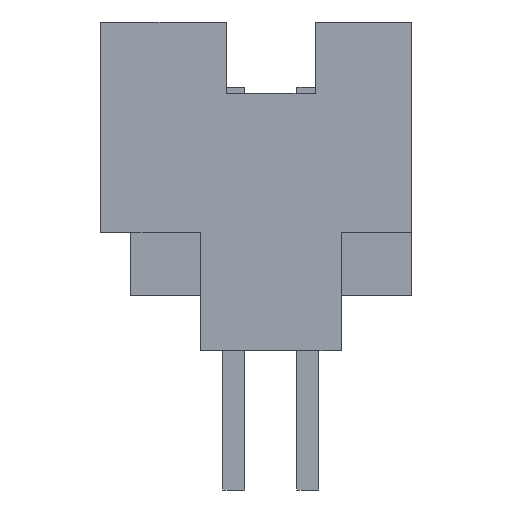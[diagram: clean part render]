
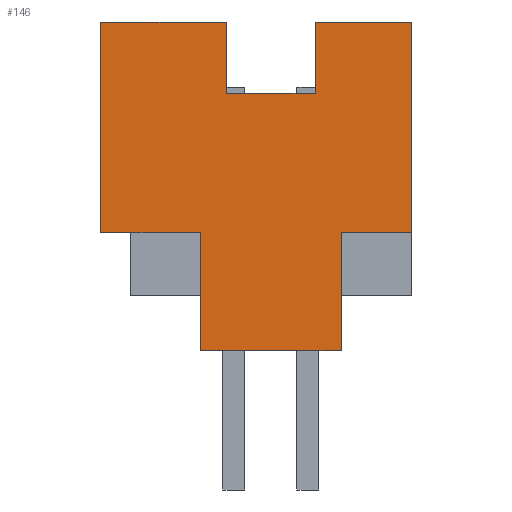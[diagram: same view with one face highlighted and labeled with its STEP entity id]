
A CAD part, left-side view. The second image highlights one B-rep face of the part: STEP entity #146.
In plain terms, the highlighted planar face has unit normal (-1, 0, 0).
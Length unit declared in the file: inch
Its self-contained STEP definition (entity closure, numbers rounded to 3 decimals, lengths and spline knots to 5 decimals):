
#49=FACE_OUTER_BOUND('',#380,.T.);
#146=ADVANCED_FACE('',(#49),#249,.T.);
#249=PLANE('',#2153);
#380=EDGE_LOOP('',(#623,#624,#625,#626,#627,#628,#629,#630,#631,#632,#633,
#634));
#623=ORIENTED_EDGE('',*,*,#1396,.T.);
#624=ORIENTED_EDGE('',*,*,#1397,.T.);
#625=ORIENTED_EDGE('',*,*,#1398,.F.);
#626=ORIENTED_EDGE('',*,*,#1399,.F.);
#627=ORIENTED_EDGE('',*,*,#1389,.T.);
#628=ORIENTED_EDGE('',*,*,#1375,.F.);
#629=ORIENTED_EDGE('',*,*,#1400,.F.);
#630=ORIENTED_EDGE('',*,*,#1401,.F.);
#631=ORIENTED_EDGE('',*,*,#1402,.F.);
#632=ORIENTED_EDGE('',*,*,#1349,.F.);
#633=ORIENTED_EDGE('',*,*,#1403,.F.);
#634=ORIENTED_EDGE('',*,*,#1404,.T.);
#1150=VERTEX_POINT('',#2930);
#1151=VERTEX_POINT('',#2931);
#1170=VERTEX_POINT('',#2979);
#1171=VERTEX_POINT('',#2981);
#1183=VERTEX_POINT('',#3008);
#1188=VERTEX_POINT('',#3021);
#1189=VERTEX_POINT('',#3022);
#1190=VERTEX_POINT('',#3024);
#1191=VERTEX_POINT('',#3026);
#1192=VERTEX_POINT('',#3029);
#1193=VERTEX_POINT('',#3031);
#1194=VERTEX_POINT('',#3034);
#1349=EDGE_CURVE('',#1150,#1151,#1644,.T.);
#1375=EDGE_CURVE('',#1170,#1171,#1670,.T.);
#1389=EDGE_CURVE('',#1183,#1171,#1684,.T.);
#1396=EDGE_CURVE('',#1188,#1189,#1691,.T.);
#1397=EDGE_CURVE('',#1189,#1190,#1692,.T.);
#1398=EDGE_CURVE('',#1191,#1190,#1693,.T.);
#1399=EDGE_CURVE('',#1183,#1191,#1694,.T.);
#1400=EDGE_CURVE('',#1192,#1170,#1695,.T.);
#1401=EDGE_CURVE('',#1193,#1192,#1696,.T.);
#1402=EDGE_CURVE('',#1151,#1193,#1697,.T.);
#1403=EDGE_CURVE('',#1194,#1150,#1698,.T.);
#1404=EDGE_CURVE('',#1194,#1188,#1699,.T.);
#1644=LINE('',#2929,#1935);
#1670=LINE('',#2980,#1961);
#1684=LINE('',#3007,#1975);
#1691=LINE('',#3020,#1982);
#1692=LINE('',#3023,#1983);
#1693=LINE('',#3025,#1984);
#1694=LINE('',#3027,#1985);
#1695=LINE('',#3028,#1986);
#1696=LINE('',#3030,#1987);
#1697=LINE('',#3032,#1988);
#1698=LINE('',#3033,#1989);
#1699=LINE('',#3035,#1990);
#1935=VECTOR('',#2346,1.);
#1961=VECTOR('',#2380,1.);
#1975=VECTOR('',#2396,1.);
#1982=VECTOR('',#2405,1.);
#1983=VECTOR('',#2406,1.);
#1984=VECTOR('',#2407,1.);
#1985=VECTOR('',#2408,1.);
#1986=VECTOR('',#2409,1.);
#1987=VECTOR('',#2410,1.);
#1988=VECTOR('',#2411,1.);
#1989=VECTOR('',#2412,1.);
#1990=VECTOR('',#2413,1.);
#2153=AXIS2_PLACEMENT_3D('',#3036,#2414,#2415);
#2346=DIRECTION('',(0.,-1.,0.));
#2380=DIRECTION('',(0.,-1.,0.));
#2396=DIRECTION('',(0.,0.,1.));
#2405=DIRECTION('',(0.,0.,-1.));
#2406=DIRECTION('',(0.,-1.,0.));
#2407=DIRECTION('',(0.,0.,-1.));
#2408=DIRECTION('',(0.,1.,0.));
#2409=DIRECTION('',(0.,0.,1.));
#2410=DIRECTION('',(0.,-1.,0.));
#2411=DIRECTION('',(0.,0.,-1.));
#2412=DIRECTION('',(0.,0.,1.));
#2413=DIRECTION('',(0.,-1.,0.));
#2414=DIRECTION('',(-1.,0.,0.));
#2415=DIRECTION('',(0.,0.,1.));
#2929=CARTESIAN_POINT('',(-0.11,0.095,0.2223));
#2930=CARTESIAN_POINT('',(-0.11,0.115,0.2223));
#2931=CARTESIAN_POINT('',(-0.11,0.03,0.2223));
#2979=CARTESIAN_POINT('',(-0.11,-0.03,0.2223));
#2980=CARTESIAN_POINT('',(-0.11,0.095,0.2223));
#2981=CARTESIAN_POINT('',(-0.11,-0.095,0.2223));
#3007=CARTESIAN_POINT('',(-0.11,-0.095,0.0373));
#3008=CARTESIAN_POINT('',(-0.11,-0.095,0.08));
#3020=CARTESIAN_POINT('',(-0.11,0.0475,0.08));
#3021=CARTESIAN_POINT('',(-0.11,0.0475,0.08));
#3022=CARTESIAN_POINT('',(-0.11,0.0475,0.));
#3023=CARTESIAN_POINT('',(-0.11,0.095,0.));
#3024=CARTESIAN_POINT('',(-0.11,-0.0475,0.));
#3025=CARTESIAN_POINT('',(-0.11,-0.0475,0.08));
#3026=CARTESIAN_POINT('',(-0.11,-0.0475,0.08));
#3027=CARTESIAN_POINT('',(-0.11,-0.0475,0.08));
#3028=CARTESIAN_POINT('',(-0.11,-0.03,0.0373));
#3029=CARTESIAN_POINT('',(-0.11,-0.03,0.1743));
#3030=CARTESIAN_POINT('',(-0.11,0.,0.1743));
#3031=CARTESIAN_POINT('',(-0.11,0.03,0.1743));
#3032=CARTESIAN_POINT('',(-0.11,0.03,0.0373));
#3033=CARTESIAN_POINT('',(-0.11,0.115,0.0173));
#3034=CARTESIAN_POINT('',(-0.11,0.115,0.08));
#3035=CARTESIAN_POINT('',(-0.11,0.0475,0.08));
#3036=CARTESIAN_POINT('',(-0.11,0.,0.0373));
